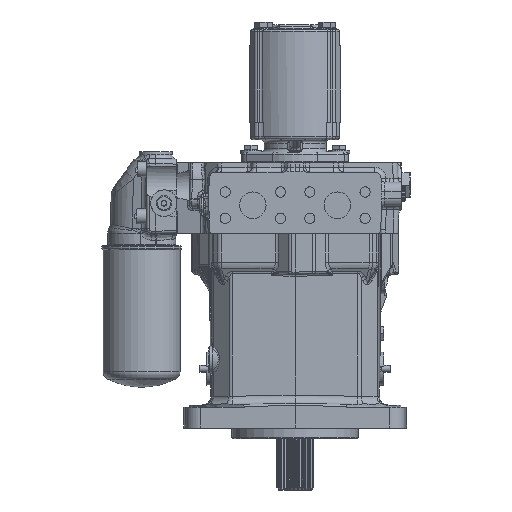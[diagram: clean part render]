
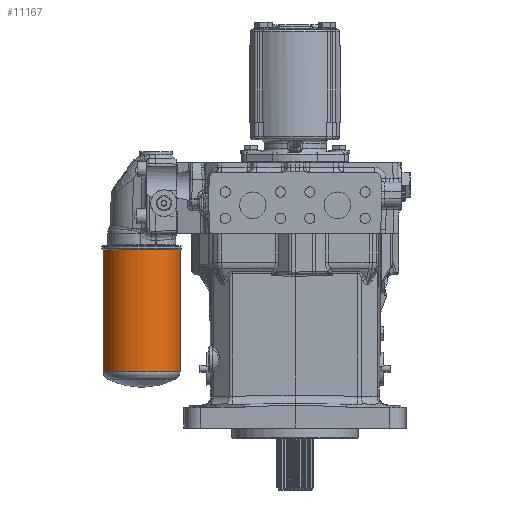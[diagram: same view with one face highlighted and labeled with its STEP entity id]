
A CAD part, front view. The second image highlights one B-rep face of the part: STEP entity #11167.
In plain terms, the highlighted cylindrical face has radius 46.5 mm (diameter 93 mm), a full revolution.
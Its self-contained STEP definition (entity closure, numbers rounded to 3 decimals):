
#4676=CYLINDRICAL_SURFACE('',#64896,46.5);
#5999=FACE_BOUND('',#20148,.T.);
#6000=FACE_BOUND('',#20149,.T.);
#7779=CIRCLE('',#64892,46.5);
#7780=CIRCLE('',#64895,46.5);
#11167=ADVANCED_FACE('',(#5999,#6000),#4676,.T.);
#20148=EDGE_LOOP('',(#28481));
#20149=EDGE_LOOP('',(#28482));
#28481=ORIENTED_EDGE('',*,*,#49515,.T.);
#28482=ORIENTED_EDGE('',*,*,#49516,.T.);
#42951=VERTEX_POINT('',#97433);
#42952=VERTEX_POINT('',#97437);
#49515=EDGE_CURVE('',#42951,#42951,#7779,.T.);
#49516=EDGE_CURVE('',#42952,#42952,#7780,.T.);
#64892=AXIS2_PLACEMENT_3D('',#97432,#75100,#75101);
#64895=AXIS2_PLACEMENT_3D('',#97436,#75106,#75107);
#64896=AXIS2_PLACEMENT_3D('',#97438,#75108,#75109);
#75100=DIRECTION('',(0.,0.,-1.));
#75101=DIRECTION('',(0.093,0.996,0.));
#75106=DIRECTION('',(0.,0.,1.));
#75107=DIRECTION('',(-0.093,-0.996,0.));
#75108=DIRECTION('',(0.,0.,-1.));
#75109=DIRECTION('',(0.093,0.996,0.));
#97432=CARTESIAN_POINT('',(-185.,24.,214.9));
#97433=CARTESIAN_POINT('',(-180.691,70.3,214.9));
#97436=CARTESIAN_POINT('',(-185.,24.,67.812));
#97437=CARTESIAN_POINT('',(-189.309,-22.3,67.812));
#97438=CARTESIAN_POINT('',(-185.,24.,49.));
